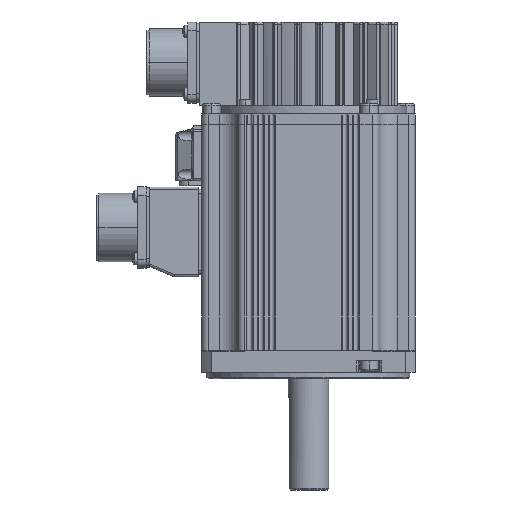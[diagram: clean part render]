
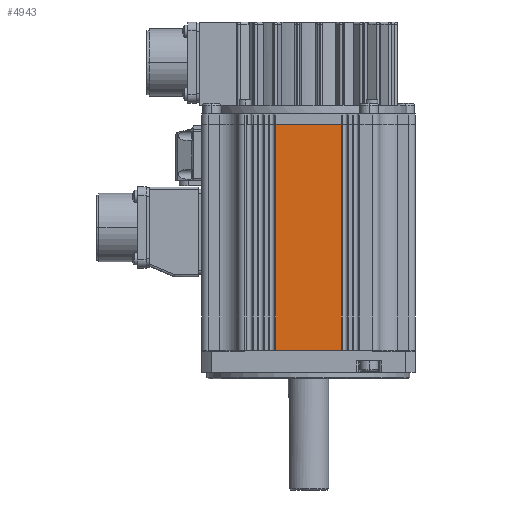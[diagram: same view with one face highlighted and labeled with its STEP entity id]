
A CAD part, left-side view. The second image highlights one B-rep face of the part: STEP entity #4943.
In plain terms, the highlighted planar face has unit normal (-1, 0, 0).
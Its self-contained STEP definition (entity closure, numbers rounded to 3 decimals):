
#596=DIRECTION('',(0.,-1.,0.));
#597=VECTOR('',#596,30.8);
#598=CARTESIAN_POINT('',(-50.,15.4,0.));
#599=LINE('',#598,#597);
#1421=DIRECTION('',(0.,-1.,0.));
#1422=VECTOR('',#1421,30.8);
#1423=CARTESIAN_POINT('',(-50.,15.4,105.5));
#1424=LINE('',#1423,#1422);
#2101=DIRECTION('',(0.,0.,1.));
#2102=VECTOR('',#2101,105.5);
#2103=CARTESIAN_POINT('',(-50.,-15.4,0.));
#2104=LINE('',#2103,#2102);
#2105=DIRECTION('',(0.,0.,-1.));
#2106=VECTOR('',#2105,105.5);
#2107=CARTESIAN_POINT('',(-50.,15.4,105.5));
#2108=LINE('',#2107,#2106);
#3224=CARTESIAN_POINT('',(-50.,-15.4,105.5));
#3226=VERTEX_POINT('',#3224);
#3230=CARTESIAN_POINT('',(-50.,-15.4,0.));
#3231=VERTEX_POINT('',#3230);
#3232=CARTESIAN_POINT('',(-50.,15.4,0.));
#3234=VERTEX_POINT('',#3232);
#3238=CARTESIAN_POINT('',(-50.,15.4,105.5));
#3239=VERTEX_POINT('',#3238);
#4930=CARTESIAN_POINT('',(-50.,33.,0.));
#4931=DIRECTION('',(-1.,0.,0.));
#4932=DIRECTION('',(0.,-1.,0.));
#4933=AXIS2_PLACEMENT_3D('',#4930,#4931,#4932);
#4934=PLANE('',#4933);
#4936=ORIENTED_EDGE('',*,*,#4935,.F.);
#4937=ORIENTED_EDGE('',*,*,#3790,.F.);
#4939=ORIENTED_EDGE('',*,*,#4938,.F.);
#4940=ORIENTED_EDGE('',*,*,#4348,.T.);
#4941=EDGE_LOOP('',(#4936,#4937,#4939,#4940));
#4942=FACE_OUTER_BOUND('',#4941,.F.);
#4943=ADVANCED_FACE('',(#4942),#4934,.T.);
#3790=EDGE_CURVE('',#3234,#3231,#599,.T.);
#4348=EDGE_CURVE('',#3239,#3226,#1424,.T.);
#4935=EDGE_CURVE('',#3231,#3226,#2104,.T.);
#4938=EDGE_CURVE('',#3239,#3234,#2108,.T.);
